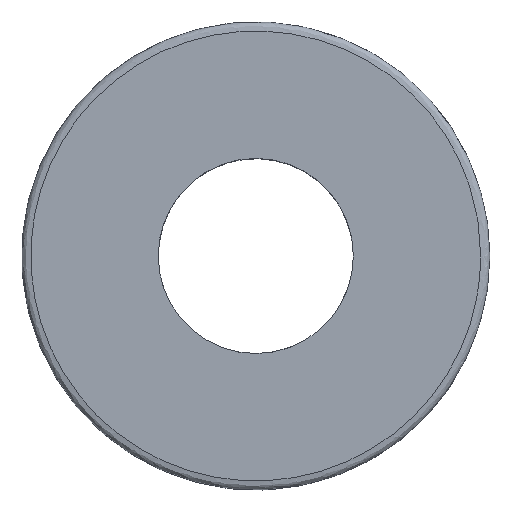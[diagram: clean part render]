
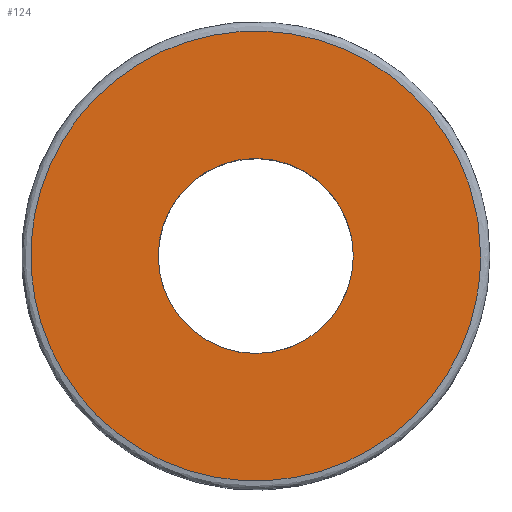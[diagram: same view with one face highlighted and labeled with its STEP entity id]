
A CAD part, top view. The second image highlights one B-rep face of the part: STEP entity #124.
In plain terms, the highlighted planar face has unit normal (0, 0, 1).
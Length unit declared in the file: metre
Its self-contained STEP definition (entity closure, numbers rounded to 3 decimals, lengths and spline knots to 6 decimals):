
#17=PLANE('',#149);
#20=CIRCLE('',#148,0.002125);
#25=ORIENTED_EDGE('',*,*,#47,.T.);
#26=ORIENTED_EDGE('',*,*,#46,.F.);
#46=EDGE_CURVE('',#57,#57,#20,.T.);
#47=EDGE_CURVE('',#58,#58,#68,.T.);
#57=VERTEX_POINT('',#209);
#58=VERTEX_POINT('',#230);
#68=B_SPLINE_CURVE_WITH_KNOTS('',3,(#211,#212,#213,#214,#215,#216,#217,#218,#219,#220,#221,#222,#223,#224,#225,#226,#227,#228,#229),.UNSPECIFIED.,.T.,.F.,(1,1,1,1,1,1,1,1,1,1,1,1,1,1,1,1,1,1,1,1,1,1,1),(-0.190789,-0.128289,-0.065789,0.,0.059375,0.121719,0.184211,0.246711,0.309211,0.371711,0.434211,0.496711,0.559211,0.621711,0.684211,0.746711,0.809211,0.871711,0.934211,1.,1.059375,1.121719,1.184211),.UNSPECIFIED.);
#79=EDGE_LOOP('',(#25));
#80=EDGE_LOOP('',(#26));
#101=FACE_BOUND('',#79,.T.);
#102=FACE_BOUND('',#80,.T.);
#124=ADVANCED_FACE('',(#101,#102),#17,.T.);
#148=AXIS2_PLACEMENT_3D('',#208,#159,#160);
#149=AXIS2_PLACEMENT_3D('',#210,#161,#162);
#159=DIRECTION('',(0.,0.,1.));
#160=DIRECTION('',(1.,0.,0.));
#161=DIRECTION('',(0.,0.,1.));
#162=DIRECTION('',(1.,0.,0.));
#208=CARTESIAN_POINT('',(0.,0.,0.001));
#209=CARTESIAN_POINT('',(0.002125,0.,0.001));
#210=CARTESIAN_POINT('',(0.,0.,0.001));
#211=CARTESIAN_POINT('',(0.004624,-0.001993,0.001));
#212=CARTESIAN_POINT('',(0.005028,-0.000065,0.001));
#213=CARTESIAN_POINT('',(0.004665,0.001857,0.001));
#214=CARTESIAN_POINT('',(0.003627,0.003481,0.001));
#215=CARTESIAN_POINT('',(0.002021,0.004604,0.001));
#216=CARTESIAN_POINT('',(0.000105,0.005026,0.001));
#217=CARTESIAN_POINT('',(-0.001826,0.004684,0.001));
#218=CARTESIAN_POINT('',(-0.00348,0.003629,0.001));
#219=CARTESIAN_POINT('',(-0.004604,0.002021,0.001));
#220=CARTESIAN_POINT('',(-0.005026,0.000105,0.001));
#221=CARTESIAN_POINT('',(-0.004684,-0.001826,0.001));
#222=CARTESIAN_POINT('',(-0.003629,-0.00348,0.001));
#223=CARTESIAN_POINT('',(-0.002021,-0.004604,0.001));
#224=CARTESIAN_POINT('',(-0.000105,-0.005026,0.001));
#225=CARTESIAN_POINT('',(0.001826,-0.004684,0.001));
#226=CARTESIAN_POINT('',(0.00348,-0.003628,0.001));
#227=CARTESIAN_POINT('',(0.004624,-0.001993,0.001));
#228=CARTESIAN_POINT('',(0.005028,-0.000065,0.001));
#229=CARTESIAN_POINT('',(0.004665,0.001857,0.001));
#230=CARTESIAN_POINT('',(0.0049,0.,0.001));
